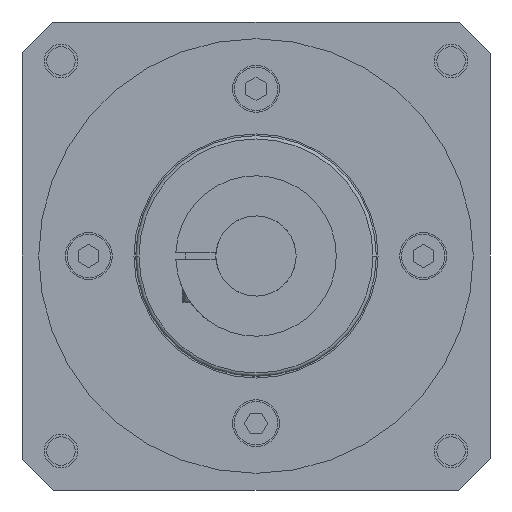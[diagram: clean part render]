
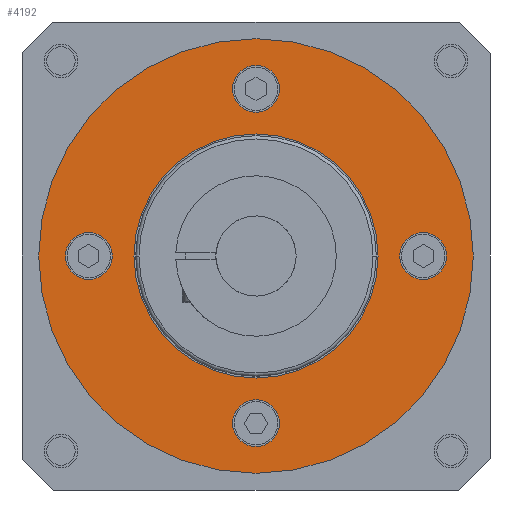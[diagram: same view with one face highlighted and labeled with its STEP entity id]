
A CAD part, left-side view. The second image highlights one B-rep face of the part: STEP entity #4192.
In plain terms, the highlighted planar face has unit normal (-1, 0, 0).
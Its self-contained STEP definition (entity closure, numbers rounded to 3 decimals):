
#723=CARTESIAN_POINT('',(5.45,0.,0.));
#724=DIRECTION('',(-1.,0.,0.));
#725=DIRECTION('',(0.,1.,0.));
#726=AXIS2_PLACEMENT_3D('',#723,#724,#725);
#732=CARTESIAN_POINT('',(5.45,0.,0.));
#733=DIRECTION('',(1.,0.,0.));
#734=DIRECTION('',(0.,1.,0.));
#735=AXIS2_PLACEMENT_3D('',#732,#733,#734);
#741=CARTESIAN_POINT('',(5.45,0.,0.));
#742=DIRECTION('',(-1.,0.,0.));
#743=DIRECTION('',(0.,1.,0.));
#744=AXIS2_PLACEMENT_3D('',#741,#742,#743);
#746=CARTESIAN_POINT('',(5.45,0.,0.));
#747=DIRECTION('',(1.,0.,0.));
#748=DIRECTION('',(0.,1.,0.));
#749=AXIS2_PLACEMENT_3D('',#746,#747,#748);
#751=CARTESIAN_POINT('',(5.45,-50.,0.));
#752=DIRECTION('',(-1.,0.,0.));
#753=DIRECTION('',(0.,0.,-1.));
#754=AXIS2_PLACEMENT_3D('',#751,#752,#753);
#756=CARTESIAN_POINT('',(5.45,-50.,0.));
#757=DIRECTION('',(-1.,0.,0.));
#758=DIRECTION('',(0.,0.,1.));
#759=AXIS2_PLACEMENT_3D('',#756,#757,#758);
#761=CARTESIAN_POINT('',(5.45,50.,0.));
#762=DIRECTION('',(-1.,0.,0.));
#763=DIRECTION('',(0.,0.,-1.));
#764=AXIS2_PLACEMENT_3D('',#761,#762,#763);
#766=CARTESIAN_POINT('',(5.45,50.,0.));
#767=DIRECTION('',(-1.,0.,0.));
#768=DIRECTION('',(0.,0.,1.));
#769=AXIS2_PLACEMENT_3D('',#766,#767,#768);
#771=CARTESIAN_POINT('',(5.45,0.,-50.));
#772=DIRECTION('',(-1.,0.,0.));
#773=DIRECTION('',(0.,0.,-1.));
#774=AXIS2_PLACEMENT_3D('',#771,#772,#773);
#776=CARTESIAN_POINT('',(5.45,0.,-50.));
#777=DIRECTION('',(-1.,0.,0.));
#778=DIRECTION('',(0.,0.,1.));
#779=AXIS2_PLACEMENT_3D('',#776,#777,#778);
#781=CARTESIAN_POINT('',(5.45,0.,50.));
#782=DIRECTION('',(-1.,0.,0.));
#783=DIRECTION('',(0.,0.,-1.));
#784=AXIS2_PLACEMENT_3D('',#781,#782,#783);
#786=CARTESIAN_POINT('',(5.45,0.,50.));
#787=DIRECTION('',(-1.,0.,0.));
#788=DIRECTION('',(0.,0.,1.));
#789=AXIS2_PLACEMENT_3D('',#786,#787,#788);
#2769=CARTESIAN_POINT('',(5.45,-36.5,0.));
#2771=VERTEX_POINT('',#2769);
#2773=CARTESIAN_POINT('',(5.45,36.5,0.));
#2775=VERTEX_POINT('',#2773);
#2781=CARTESIAN_POINT('',(5.45,65.,0.));
#2782=CARTESIAN_POINT('',(5.45,-65.,0.));
#2783=VERTEX_POINT('',#2781);
#2784=VERTEX_POINT('',#2782);
#2885=CARTESIAN_POINT('',(5.45,-50.,7.));
#2886=VERTEX_POINT('',#2885);
#2887=CARTESIAN_POINT('',(5.45,50.,-7.));
#2888=VERTEX_POINT('',#2887);
#2889=CARTESIAN_POINT('',(5.45,0.,-43.));
#2890=VERTEX_POINT('',#2889);
#3199=CARTESIAN_POINT('',(5.45,-50.,-7.));
#3200=VERTEX_POINT('',#3199);
#3201=CARTESIAN_POINT('',(5.45,50.,7.));
#3202=VERTEX_POINT('',#3201);
#3203=CARTESIAN_POINT('',(5.45,0.,-57.));
#3204=VERTEX_POINT('',#3203);
#3205=CARTESIAN_POINT('',(5.45,0.,43.));
#3206=CARTESIAN_POINT('',(5.45,0.,57.));
#3207=VERTEX_POINT('',#3205);
#3208=VERTEX_POINT('',#3206);
#4153=CARTESIAN_POINT('',(5.45,0.,0.));
#4154=DIRECTION('',(1.,0.,0.));
#4155=DIRECTION('',(0.,1.,0.));
#4156=AXIS2_PLACEMENT_3D('',#4153,#4154,#4155);
#4157=PLANE('',#4156);
#4158=ORIENTED_EDGE('',*,*,#4147,.T.);
#4159=ORIENTED_EDGE('',*,*,#4133,.F.);
#4160=EDGE_LOOP('',(#4158,#4159));
#4161=FACE_OUTER_BOUND('',#4160,.F.);
#4163=ORIENTED_EDGE('',*,*,#4162,.T.);
#4165=ORIENTED_EDGE('',*,*,#4164,.F.);
#4166=EDGE_LOOP('',(#4163,#4165));
#4167=FACE_BOUND('',#4166,.F.);
#4169=ORIENTED_EDGE('',*,*,#4168,.T.);
#4171=ORIENTED_EDGE('',*,*,#4170,.T.);
#4172=EDGE_LOOP('',(#4169,#4171));
#4173=FACE_BOUND('',#4172,.F.);
#4175=ORIENTED_EDGE('',*,*,#4174,.T.);
#4177=ORIENTED_EDGE('',*,*,#4176,.T.);
#4178=EDGE_LOOP('',(#4175,#4177));
#4179=FACE_BOUND('',#4178,.F.);
#4181=ORIENTED_EDGE('',*,*,#4180,.T.);
#4183=ORIENTED_EDGE('',*,*,#4182,.T.);
#4184=EDGE_LOOP('',(#4181,#4183));
#4185=FACE_BOUND('',#4184,.F.);
#4187=ORIENTED_EDGE('',*,*,#4186,.T.);
#4189=ORIENTED_EDGE('',*,*,#4188,.T.);
#4190=EDGE_LOOP('',(#4187,#4189));
#4191=FACE_BOUND('',#4190,.F.);
#727=CIRCLE('',#726,65.);
#736=CIRCLE('',#735,65.);
#745=CIRCLE('',#744,36.5);
#750=CIRCLE('',#749,36.5);
#755=CIRCLE('',#754,7.);
#760=CIRCLE('',#759,7.);
#765=CIRCLE('',#764,7.);
#770=CIRCLE('',#769,7.);
#775=CIRCLE('',#774,7.);
#780=CIRCLE('',#779,7.);
#785=CIRCLE('',#784,7.);
#790=CIRCLE('',#789,7.);
#4133=EDGE_CURVE('',#2783,#2784,#727,.T.);
#4147=EDGE_CURVE('',#2783,#2784,#736,.T.);
#4162=EDGE_CURVE('',#2775,#2771,#745,.T.);
#4164=EDGE_CURVE('',#2775,#2771,#750,.T.);
#4168=EDGE_CURVE('',#3200,#2886,#755,.T.);
#4170=EDGE_CURVE('',#2886,#3200,#760,.T.);
#4174=EDGE_CURVE('',#2888,#3202,#765,.T.);
#4176=EDGE_CURVE('',#3202,#2888,#770,.T.);
#4180=EDGE_CURVE('',#3204,#2890,#775,.T.);
#4182=EDGE_CURVE('',#2890,#3204,#780,.T.);
#4186=EDGE_CURVE('',#3207,#3208,#785,.T.);
#4188=EDGE_CURVE('',#3208,#3207,#790,.T.);
#4192=ADVANCED_FACE('',(#4161,#4167,#4173,#4179,#4185,#4191),#4157,.F.);
